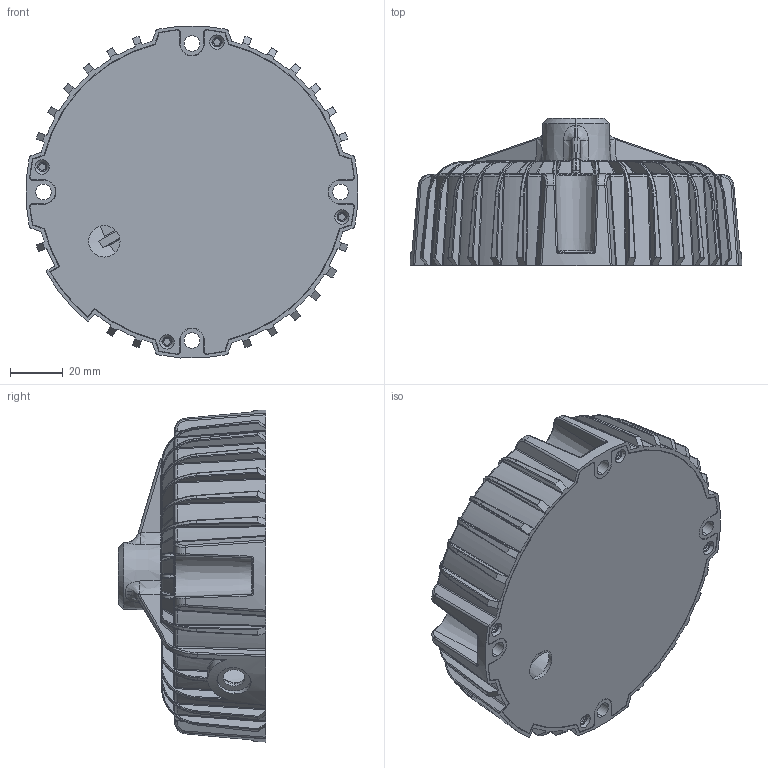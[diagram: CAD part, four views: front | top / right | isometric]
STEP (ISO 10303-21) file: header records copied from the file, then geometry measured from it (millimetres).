
FILE_DESCRIPTION((''),'2;1');
FILE_NAME('XBG-100-A_ASM','2020-03-16T17:26:12',('shalinice'),(''),'CREO PARAMETRIC BY PTC INC, 2016390','CREO PARAMETRIC BY PTC INC, 2016390','');
FILE_SCHEMA(('AUTOMOTIVE_DESIGN { 1 0 10303 214 1 1 1 1 }'));
Length unit declared in the file: millimetre
Products named in the file (4): DOWNCASE_12; PRT0001_2; XBG-100_ASM_27_ASM; XBG-100-A_ASM
Assembly tree (3 placements, depth 3):
  XBG-100-A_ASM
    XBG-100_ASM_27_ASM
      DOWNCASE_12
      PRT0001_2
Bounding box: 126.31 x 56 x 126.31 mm (x, y, z)
Volume: 90856.7 mm3; surface area: 82313.8 mm2
Topology: 2 solids, 2 shells, 1797 faces, 4694 edges, 2821 vertices
Faces by surface type: bspline 618, cylinder 434, plane 277, cone 190, torus 163, extrusion 58, revolution 43, sphere 14
Entity records: 73927 total; most frequent: CARTESIAN_POINT 36091, ORIENTED_EDGE 9202, DIRECTION 5990, EDGE_CURVE 4601, VERTEX_POINT 2821, AXIS2_PLACEMENT_3D 2422, B_SPLINE_CURVE_WITH_KNOTS 2322, EDGE_LOOP 1832
